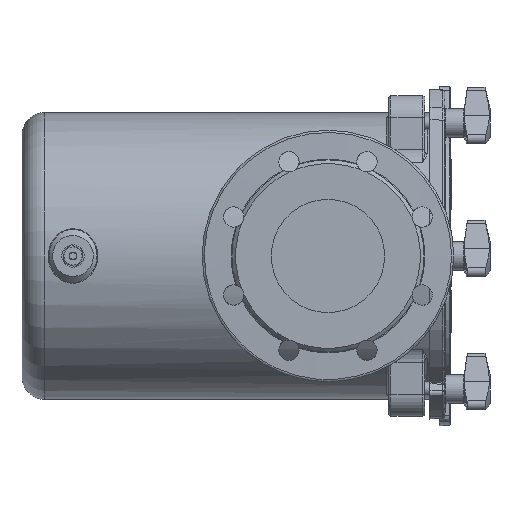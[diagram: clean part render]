
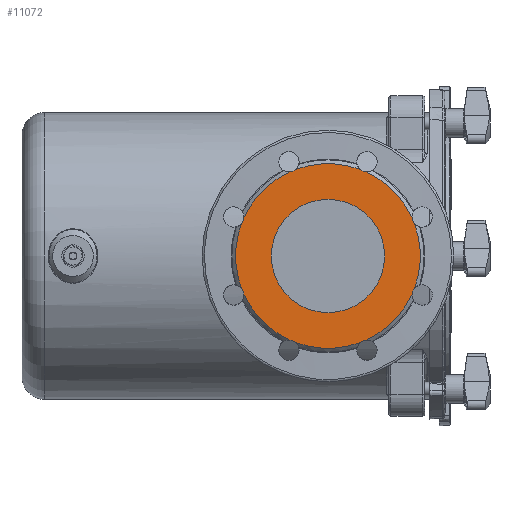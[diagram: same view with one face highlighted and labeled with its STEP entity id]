
A CAD part, left-side view. The second image highlights one B-rep face of the part: STEP entity #11072.
In plain terms, the highlighted planar face has unit normal (-1, 0, 0).
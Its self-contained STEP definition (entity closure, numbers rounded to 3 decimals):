
#363=CIRCLE('',#11562,50.);
#403=CIRCLE('',#11625,81.5);
#404=CIRCLE('',#11627,81.5);
#409=CIRCLE('',#11635,81.5);
#410=CIRCLE('',#11637,81.5);
#415=CIRCLE('',#11645,81.5);
#416=CIRCLE('',#11647,81.5);
#421=CIRCLE('',#11656,81.5);
#422=CIRCLE('',#11658,9.);
#423=CIRCLE('',#11659,9.);
#424=CIRCLE('',#11660,81.5);
#425=CIRCLE('',#11661,9.);
#426=CIRCLE('',#11662,9.);
#427=CIRCLE('',#11663,9.);
#428=CIRCLE('',#11664,9.);
#429=CIRCLE('',#11665,9.);
#430=CIRCLE('',#11666,9.);
#1575=ORIENTED_EDGE('',*,*,#3668,.T.);
#1576=ORIENTED_EDGE('',*,*,#3805,.T.);
#1577=ORIENTED_EDGE('',*,*,#3804,.F.);
#1578=ORIENTED_EDGE('',*,*,#3806,.T.);
#1579=ORIENTED_EDGE('',*,*,#3807,.F.);
#1580=ORIENTED_EDGE('',*,*,#3808,.T.);
#1581=ORIENTED_EDGE('',*,*,#3782,.F.);
#1582=ORIENTED_EDGE('',*,*,#3809,.T.);
#1583=ORIENTED_EDGE('',*,*,#3785,.F.);
#1584=ORIENTED_EDGE('',*,*,#3810,.T.);
#1585=ORIENTED_EDGE('',*,*,#3768,.F.);
#1586=ORIENTED_EDGE('',*,*,#3811,.T.);
#1587=ORIENTED_EDGE('',*,*,#3771,.F.);
#1588=ORIENTED_EDGE('',*,*,#3812,.T.);
#1589=ORIENTED_EDGE('',*,*,#3754,.F.);
#1590=ORIENTED_EDGE('',*,*,#3813,.T.);
#1591=ORIENTED_EDGE('',*,*,#3756,.F.);
#3668=EDGE_CURVE('',#4810,#4810,#363,.T.);
#3754=EDGE_CURVE('',#4871,#4870,#403,.T.);
#3756=EDGE_CURVE('',#4872,#4873,#404,.T.);
#3768=EDGE_CURVE('',#4883,#4882,#409,.T.);
#3771=EDGE_CURVE('',#4885,#4884,#410,.T.);
#3782=EDGE_CURVE('',#4895,#4894,#415,.T.);
#3785=EDGE_CURVE('',#4897,#4896,#416,.T.);
#3804=EDGE_CURVE('',#4907,#4906,#421,.T.);
#3805=EDGE_CURVE('',#4872,#4906,#422,.T.);
#3806=EDGE_CURVE('',#4907,#4908,#423,.T.);
#3807=EDGE_CURVE('',#4909,#4908,#424,.T.);
#3808=EDGE_CURVE('',#4909,#4894,#425,.T.);
#3809=EDGE_CURVE('',#4895,#4896,#426,.T.);
#3810=EDGE_CURVE('',#4897,#4882,#427,.T.);
#3811=EDGE_CURVE('',#4883,#4884,#428,.T.);
#3812=EDGE_CURVE('',#4885,#4870,#429,.T.);
#3813=EDGE_CURVE('',#4871,#4873,#430,.T.);
#4810=VERTEX_POINT('',#14274);
#4870=VERTEX_POINT('',#14649);
#4871=VERTEX_POINT('',#14655);
#4872=VERTEX_POINT('',#14663);
#4873=VERTEX_POINT('',#14665);
#4882=VERTEX_POINT('',#14707);
#4883=VERTEX_POINT('',#14713);
#4884=VERTEX_POINT('',#14721);
#4885=VERTEX_POINT('',#14727);
#4894=VERTEX_POINT('',#14765);
#4895=VERTEX_POINT('',#14771);
#4896=VERTEX_POINT('',#14779);
#4897=VERTEX_POINT('',#14785);
#4906=VERTEX_POINT('',#14912);
#4907=VERTEX_POINT('',#14918);
#4908=VERTEX_POINT('',#14923);
#4909=VERTEX_POINT('',#14925);
#6155=EDGE_LOOP('',(#1575));
#6156=EDGE_LOOP('',(#1576,#1577,#1578,#1579,#1580,#1581,#1582,#1583,#1584,
#1585,#1586,#1587,#1588,#1589,#1590,#1591));
#6794=FACE_BOUND('',#6155,.T.);
#6795=FACE_BOUND('',#6156,.T.);
#7374=PLANE('',#11657);
#11072=ADVANCED_FACE('',(#6794,#6795),#7374,.F.);
#11562=AXIS2_PLACEMENT_3D('',#14273,#12390,#12391);
#11625=AXIS2_PLACEMENT_3D('',#14656,#12516,#12517);
#11627=AXIS2_PLACEMENT_3D('',#14664,#12520,#12521);
#11635=AXIS2_PLACEMENT_3D('',#14714,#12536,#12537);
#11637=AXIS2_PLACEMENT_3D('',#14728,#12540,#12541);
#11645=AXIS2_PLACEMENT_3D('',#14772,#12556,#12557);
#11647=AXIS2_PLACEMENT_3D('',#14786,#12560,#12561);
#11656=AXIS2_PLACEMENT_3D('',#14919,#12578,#12579);
#11657=AXIS2_PLACEMENT_3D('',#14920,#12580,#12581);
#11658=AXIS2_PLACEMENT_3D('',#14921,#12582,#12583);
#11659=AXIS2_PLACEMENT_3D('',#14922,#12584,#12585);
#11660=AXIS2_PLACEMENT_3D('',#14924,#12586,#12587);
#11661=AXIS2_PLACEMENT_3D('',#14926,#12588,#12589);
#11662=AXIS2_PLACEMENT_3D('',#14927,#12590,#12591);
#11663=AXIS2_PLACEMENT_3D('',#14928,#12592,#12593);
#11664=AXIS2_PLACEMENT_3D('',#14929,#12594,#12595);
#11665=AXIS2_PLACEMENT_3D('',#14930,#12596,#12597);
#11666=AXIS2_PLACEMENT_3D('',#14931,#12598,#12599);
#12390=DIRECTION('',(1.,0.,0.));
#12391=DIRECTION('',(0.,1.,0.));
#12516=DIRECTION('',(1.,0.,0.));
#12517=DIRECTION('',(0.,1.,0.));
#12520=DIRECTION('',(1.,0.,0.));
#12521=DIRECTION('',(0.,1.,0.));
#12536=DIRECTION('',(1.,0.,0.));
#12537=DIRECTION('',(0.,1.,0.));
#12540=DIRECTION('',(1.,0.,0.));
#12541=DIRECTION('',(0.,1.,0.));
#12556=DIRECTION('',(1.,0.,0.));
#12557=DIRECTION('',(0.,1.,0.));
#12560=DIRECTION('',(1.,0.,0.));
#12561=DIRECTION('',(0.,1.,0.));
#12578=DIRECTION('',(1.,0.,0.));
#12579=DIRECTION('',(0.,1.,0.));
#12580=DIRECTION('',(1.,0.,0.));
#12581=DIRECTION('',(0.,1.,0.));
#12582=DIRECTION('',(1.,0.,0.));
#12583=DIRECTION('',(0.,-0.707,-0.707));
#12584=DIRECTION('',(1.,0.,0.));
#12585=DIRECTION('',(0.,-1.,0.));
#12586=DIRECTION('',(1.,0.,0.));
#12587=DIRECTION('',(0.,1.,0.));
#12588=DIRECTION('',(1.,0.,0.));
#12589=DIRECTION('',(0.,-0.707,0.707));
#12590=DIRECTION('',(1.,0.,0.));
#12591=DIRECTION('',(0.,0.,1.));
#12592=DIRECTION('',(1.,0.,0.));
#12593=DIRECTION('',(0.,0.707,0.707));
#12594=DIRECTION('',(1.,0.,0.));
#12595=DIRECTION('',(0.,1.,0.));
#12596=DIRECTION('',(1.,0.,0.));
#12597=DIRECTION('',(0.,0.707,-0.707));
#12598=DIRECTION('',(1.,0.,0.));
#12599=DIRECTION('',(0.,0.,-1.));
#14273=CARTESIAN_POINT('',(-190.,93.,0.));
#14274=CARTESIAN_POINT('',(-190.,143.,0.));
#14649=CARTESIAN_POINT('',(-190.,16.672,-28.57));
#14655=CARTESIAN_POINT('',(-190.,16.672,28.57));
#14656=CARTESIAN_POINT('',(-190.,93.,0.));
#14663=CARTESIAN_POINT('',(-190.,59.23,74.174));
#14664=CARTESIAN_POINT('',(-190.,93.,0.));
#14665=CARTESIAN_POINT('',(-190.,18.826,33.77));
#14707=CARTESIAN_POINT('',(-190.,121.57,-76.328));
#14713=CARTESIAN_POINT('',(-190.,64.43,-76.328));
#14714=CARTESIAN_POINT('',(-190.,93.,0.));
#14721=CARTESIAN_POINT('',(-190.,59.23,-74.174));
#14727=CARTESIAN_POINT('',(-190.,18.826,-33.77));
#14728=CARTESIAN_POINT('',(-190.,93.,0.));
#14765=CARTESIAN_POINT('',(-190.,169.328,28.57));
#14771=CARTESIAN_POINT('',(-190.,169.328,-28.57));
#14772=CARTESIAN_POINT('',(-190.,93.,0.));
#14779=CARTESIAN_POINT('',(-190.,167.174,-33.77));
#14785=CARTESIAN_POINT('',(-190.,126.77,-74.174));
#14786=CARTESIAN_POINT('',(-190.,93.,0.));
#14912=CARTESIAN_POINT('',(-190.,64.43,76.328));
#14918=CARTESIAN_POINT('',(-190.,121.57,76.328));
#14919=CARTESIAN_POINT('',(-190.,93.,0.));
#14920=CARTESIAN_POINT('',(-190.,267.054,611.519));
#14921=CARTESIAN_POINT('',(-190.,58.558,83.149));
#14922=CARTESIAN_POINT('',(-190.,127.442,83.149));
#14923=CARTESIAN_POINT('',(-190.,126.77,74.174));
#14924=CARTESIAN_POINT('',(-190.,93.,0.));
#14925=CARTESIAN_POINT('',(-190.,167.174,33.77));
#14926=CARTESIAN_POINT('',(-190.,176.149,34.442));
#14927=CARTESIAN_POINT('',(-190.,176.149,-34.442));
#14928=CARTESIAN_POINT('',(-190.,127.442,-83.149));
#14929=CARTESIAN_POINT('',(-190.,58.558,-83.149));
#14930=CARTESIAN_POINT('',(-190.,9.851,-34.442));
#14931=CARTESIAN_POINT('',(-190.,9.851,34.442));
